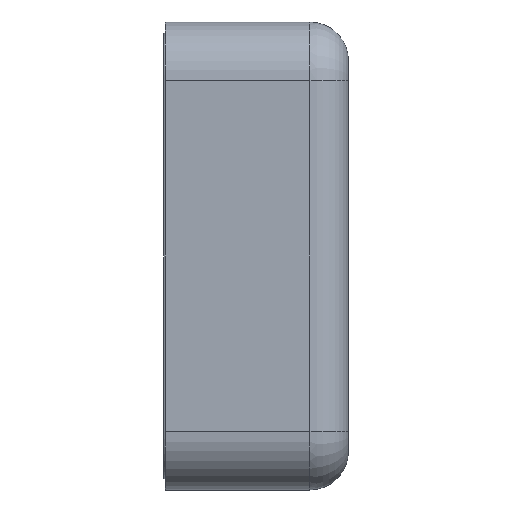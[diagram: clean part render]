
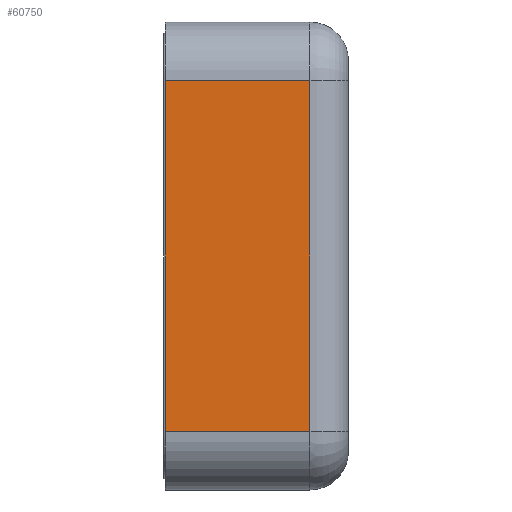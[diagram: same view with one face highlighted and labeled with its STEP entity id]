
A CAD part, left-side view. The second image highlights one B-rep face of the part: STEP entity #60750.
In plain terms, the highlighted planar face has unit normal (-1, 0, 0).
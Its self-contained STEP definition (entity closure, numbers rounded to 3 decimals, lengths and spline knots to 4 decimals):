
#157 = EDGE_CURVE ( 'NONE', #24941, #66730, #19572, .T. ) ;
#5095 = VECTOR ( 'NONE', #74823, 39.3701 ) ;
#5542 = CARTESIAN_POINT ( 'NONE',  ( -9.45, -2.205, -4.8846 ) ) ;
#6680 = CARTESIAN_POINT ( 'NONE',  ( -9.45, 1.5399, -4.8846 ) ) ;
#8633 = VECTOR ( 'NONE', #46609, 39.3701 ) ;
#8742 = FACE_OUTER_BOUND ( 'NONE', #16375, .T. ) ;
#9650 = CARTESIAN_POINT ( 'NONE',  ( -9.45, -2.205, 4.2112 ) ) ;
#11677 = VERTEX_POINT ( 'NONE', #32287 ) ;
#11716 = VECTOR ( 'NONE', #44013, 39.3701 ) ;
#16375 = EDGE_LOOP ( 'NONE', ( #72857, #33252, #25287, #31419 ) ) ;
#18055 = CARTESIAN_POINT ( 'NONE',  ( -9.45, 1.4399, -4.8846 ) ) ;
#18397 = LINE ( 'NONE', #21513, #8633 ) ;
#19572 = LINE ( 'NONE', #38308, #11716 ) ;
#21513 = CARTESIAN_POINT ( 'NONE',  ( -9.45, 1.5399, -4.8846 ) ) ;
#24375 = DIRECTION ( 'NONE',  ( -1., 0., 0. ) ) ;
#24724 = VERTEX_POINT ( 'NONE', #6680 ) ;
#24941 = VERTEX_POINT ( 'NONE', #9650 ) ;
#25257 = DIRECTION ( 'NONE',  ( 0., 0., 1. ) ) ;
#25287 = ORIENTED_EDGE ( 'NONE', *, *, #157, .T. ) ;
#30518 = CARTESIAN_POINT ( 'NONE',  ( -9.45, 1.4399, -4.8846 ) ) ;
#31419 = ORIENTED_EDGE ( 'NONE', *, *, #48461, .F. ) ;
#32287 = CARTESIAN_POINT ( 'NONE',  ( -9.45, -2.205, -4.8846 ) ) ;
#32412 = VECTOR ( 'NONE', #25257, 39.3701 ) ;
#33252 = ORIENTED_EDGE ( 'NONE', *, *, #55774, .T. ) ;
#38308 = CARTESIAN_POINT ( 'NONE',  ( -9.45, 1.4399, 4.2112 ) ) ;
#44013 = DIRECTION ( 'NONE',  ( 0., 1., 0. ) ) ;
#46022 = AXIS2_PLACEMENT_3D ( 'NONE', #18055, #24375, #68071 ) ;
#46609 = DIRECTION ( 'NONE',  ( 0., 0., 1. ) ) ;
#48461 = EDGE_CURVE ( 'NONE', #24724, #66730, #18397, .T. ) ;
#49145 = PLANE ( 'NONE',  #46022 ) ;
#54916 = EDGE_CURVE ( 'NONE', #11677, #24724, #75585, .T. ) ;
#55774 = EDGE_CURVE ( 'NONE', #11677, #24941, #64705, .T. ) ;
#60750 = ADVANCED_FACE ( 'NONE', ( #8742 ), #49145, .T. ) ;
#64705 = LINE ( 'NONE', #5542, #32412 ) ;
#66730 = VERTEX_POINT ( 'NONE', #80215 ) ;
#68071 = DIRECTION ( 'NONE',  ( 0., 0., 1. ) ) ;
#72857 = ORIENTED_EDGE ( 'NONE', *, *, #54916, .F. ) ;
#74823 = DIRECTION ( 'NONE',  ( 0., 1., 0. ) ) ;
#75585 = LINE ( 'NONE', #30518, #5095 ) ;
#80215 = CARTESIAN_POINT ( 'NONE',  ( -9.45, 1.5399, 4.2112 ) ) ;
